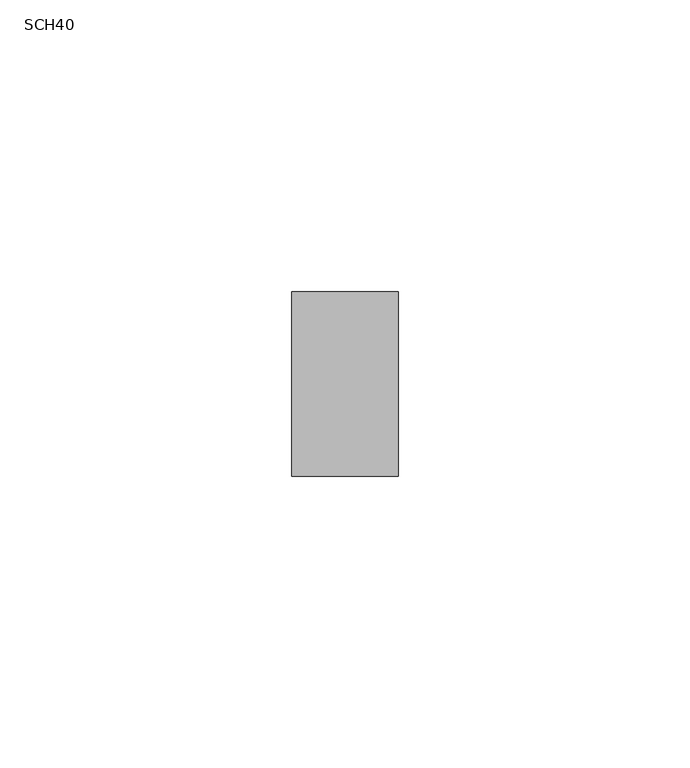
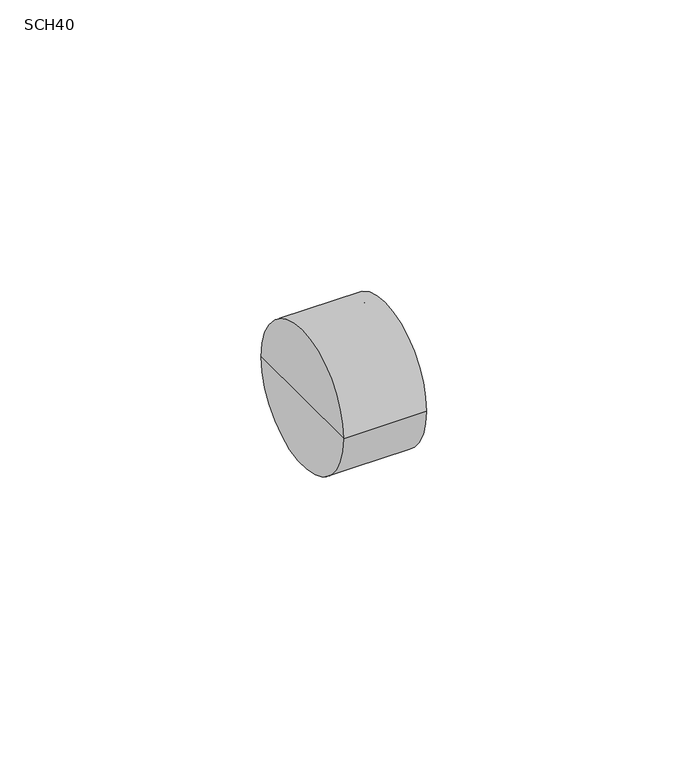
"""IFC4 building model written with IfcOpenShell, lengths in millimetres: cable carrier fitting geometry, PavcoWavin_ConduitFittings_ZnoUsarAdaptadorTerminal : SCH40."""

import ifcopenshell
import ifcopenshell.guid

model = None  # the IFC model being written
_history = None  # IfcOwnerHistory: only IFC2X3 demands one
_inside = {}  # id of a spatial element -> (the spatial element, [elements in it])
_under = {}  # id of a project, library or spatial element -> (it, [spatial elements below it])
_declared = {}  # id of a project -> (the project, [libraries it declares])
_typed = {}  # id of a type object -> (the type object, [elements of that type])
_made_of = {}  # id of a material, layer set ... -> (it, [elements and type objects made of it])


def new_model(schema):
    """Start an empty IFC model of exactly this schema.

    Asked for "IFC4X3", IfcOpenShell would pick the latest addendum, in which some entities
    have other attributes; the version numbers below select the first issue.
    IFC2X3 requires an IfcOwnerHistory on every rooted entity: one is made here for all.
    """
    global model, _history
    if schema == "IFC4X3":
        model = ifcopenshell.file(schema_version=(4, 3, 0, 0))
    else:
        model = ifcopenshell.file(schema=schema)
    _inside.clear()
    _under.clear()
    _declared.clear()
    _typed.clear()
    _made_of.clear()
    _history = None
    if model.schema == "IFC2X3":
        org = make("IfcOrganization", Name="unknown")
        user = make(
            "IfcPersonAndOrganization",
            ThePerson=make("IfcPerson", FamilyName="unknown"),
            TheOrganization=org,
        )
        app = make(
            "IfcApplication",
            ApplicationDeveloper=org,
            Version="unknown",
            ApplicationFullName="unknown",
            ApplicationIdentifier="unknown",
        )
        _history = make(
            "IfcOwnerHistory",
            OwningUser=user,
            OwningApplication=app,
            ChangeAction="ADDED",
            CreationDate=0,
        )
    return model


def make(cls, **values):
    """One entity of the class cls with the attributes given. An attribute that is None is left unset."""
    return model.create_entity(
        cls, **{name: value for name, value in values.items() if value is not None}
    )


def rooted(cls, **values):
    """An entity with a GlobalId (a new one), such as an element, a storey or a relation."""
    return make(cls, GlobalId=ifcopenshell.guid.new(), OwnerHistory=_history, **values)


def si_unit(unit_type, name, prefix=None):
    """IfcSIUnit, for example si_unit("LENGTHUNIT", "METRE", prefix="MILLI")."""
    return make("IfcSIUnit", UnitType=unit_type, Prefix=prefix, Name=name)


def assignment(units):
    """IfcUnitAssignment: the units of a project."""
    return None if units is None else make("IfcUnitAssignment", Units=units)


def point(xyz):
    """IfcCartesianPoint."""
    return None if xyz is None else make("IfcCartesianPoint", Coordinates=xyz)


def direction(xyz):
    """IfcDirection."""
    return None if xyz is None else make("IfcDirection", DirectionRatios=xyz)


def frame(location, z_axis=None, x_axis=None):
    """IfcAxis2Placement3D, a coordinate frame: its origin and axes. An axis left out is left unset."""
    return make(
        "IfcAxis2Placement3D",
        Location=point(location),
        Axis=direction(z_axis),
        RefDirection=direction(x_axis),
    )


def origin():
    """The frame at (0, 0, 0) with its axes left unset."""
    return frame((0.0, 0.0, 0.0))


def place(relative_to, where):
    """IfcLocalPlacement: puts the frame where relative to a parent placement (None: the world)."""
    return make(
        "IfcLocalPlacement", PlacementRelTo=relative_to, RelativePlacement=where
    )


def context(
    kind, dimensions, precision=None, world=None, true_north=None, identifier=None
):
    """IfcGeometricRepresentationContext, for example the 3D "Model" context."""
    return make(
        "IfcGeometricRepresentationContext",
        ContextIdentifier=identifier,
        ContextType=kind,
        CoordinateSpaceDimension=dimensions,
        Precision=precision,
        WorldCoordinateSystem=world,
        TrueNorth=true_north,
    )


def project(units=None, contexts=None):
    """IfcProject with its units and contexts."""
    return rooted(
        "IfcProject",
        Name="project",
        RepresentationContexts=contexts,
        UnitsInContext=assignment(units),
    )


def spatial(cls, under=None, at=None, **own):
    """A site, building, storey or space (cls), placed at a placement, below another one or the project."""
    s = rooted(cls, ObjectPlacement=at, **own)
    if under is not None:
        _under.setdefault(under.id(), (under, []))[1].append(s)
    return s


def polyline(points):
    """IfcPolyline through the points."""
    return make("IfcPolyline", Points=[point(p) for p in points])


def circle_curve(where, radius):
    """IfcCircle in the frame where."""
    return make("IfcCircle", Position=where, Radius=radius)


def shape(context_of_items, identifier, shape_type, items):
    """IfcShapeRepresentation: the items that make up one representation, for example the "Body"."""
    return make(
        "IfcShapeRepresentation",
        ContextOfItems=context_of_items,
        RepresentationIdentifier=identifier,
        RepresentationType=shape_type,
        Items=items,
    )


def source(mapping_origin, context_of_items, identifier, shape_type, items):
    """IfcRepresentationMap: a shape defined once, which mapped items show again and again."""
    return make(
        "IfcRepresentationMap",
        MappingOrigin=mapping_origin,
        MappedRepresentation=shape(context_of_items, identifier, shape_type, items),
    )


def transform(
    local_origin,
    x_axis=None,
    y_axis=None,
    z_axis=None,
    scale=None,
    scale2=None,
    scale3=None,
    uniform=True,
):
    """IfcCartesianTransformationOperator3D, or its non-uniform kind. x_axis, y_axis, z_axis: its Axis1, 2, 3."""
    if uniform:
        return make(
            "IfcCartesianTransformationOperator3D",
            Axis1=direction(x_axis),
            Axis2=direction(y_axis),
            LocalOrigin=point(local_origin),
            Scale=scale,
            Axis3=direction(z_axis),
        )
    return make(
        "IfcCartesianTransformationOperator3DnonUniform",
        Axis1=direction(x_axis),
        Axis2=direction(y_axis),
        LocalOrigin=point(local_origin),
        Scale=scale,
        Axis3=direction(z_axis),
        Scale2=scale2,
        Scale3=scale3,
    )


def mapped(mapping_source, mapping_target):
    """IfcMappedItem: shows the shape of a source again, moved by a transform."""
    return make(
        "IfcMappedItem", MappingSource=mapping_source, MappingTarget=mapping_target
    )


def made_of(thing, what):
    """Note that an element or type object is made of a material, layer set ...; save() writes the relation."""
    if what is not None:
        _made_of.setdefault(what.id(), (what, []))[1].append(thing)
    return thing


def element(
    cls,
    number,
    at=None,
    inside=None,
    cuts=None,
    type_object=None,
    material=None,
    context=None,
    identifier="Body",
    shape_type=None,
    held_by="IfcProductDefinitionShape",
    body=None,
    shapes=None,
    **own,
):
    """One element of the class cls, such as IfcWall. Its Tag is "e" and its number.

    at: its placement. inside: the storey or other place that contains it. cuts: it is an
    opening in that element (IfcRelVoidsElement). A single representation is given by context,
    identifier, shape_type and body (its items); several are given by shapes. held_by: the class
    of the entity that holds the representations. save() writes the other relations.
    """
    e = rooted(cls, Tag="e%d" % number, ObjectPlacement=at, **own)
    if body is not None:
        shapes = [shape(context, identifier, shape_type, body)]
    if shapes is not None:
        e.Representation = make(held_by, Representations=shapes)
    if inside is not None:
        _inside.setdefault(inside.id(), (inside, []))[1].append(e)
    if cuts is not None:
        rooted(
            "IfcRelVoidsElement", RelatingBuildingElement=cuts, RelatedOpeningElement=e
        )
    if type_object is not None:
        _typed.setdefault(type_object.id(), (type_object, []))[1].append(e)
    return made_of(e, material)


def aggregate(whole, parts):
    """IfcRelAggregates: a whole, such as a stair, and the parts it consists of."""
    return rooted("IfcRelAggregates", RelatingObject=whole, RelatedObjects=parts)


def save(model, path):
    """Write the relations noted so far, then the file.

    IfcRelAggregates (storeys below a building ...), IfcRelContainedInSpatialStructure (elements
    in a storey), IfcRelDefinesByType, IfcRelAssociatesMaterial and IfcRelDeclares: one each for
    every whole, place, type object, material and project.
    """
    for whole, parts in _under.values():
        aggregate(whole, parts)
    for where, things in _inside.values():
        rooted(
            "IfcRelContainedInSpatialStructure",
            RelatedElements=things,
            RelatingStructure=where,
        )
    for kind, things in _typed.values():
        rooted("IfcRelDefinesByType", RelatedObjects=things, RelatingType=kind)
    for what, things in _made_of.values():
        rooted("IfcRelAssociatesMaterial", RelatedObjects=things, RelatingMaterial=what)
    for by, libraries in _declared.values():
        rooted("IfcRelDeclares", RelatingContext=by, RelatedDefinitions=libraries)
    model.write(path)


def plane_surface(at):
    """IfcPlane: the flat surface through the origin of the frame at, square to its z axis."""
    return make("IfcPlane", Position=at)


def cylinder_surface(at, radius):
    """IfcCylindricalSurface: all points at the distance radius from the z axis of the frame at."""
    return make("IfcCylindricalSurface", Position=at, Radius=radius)


def revolved_surface(curve, axis_point, axis_direction):
    """IfcSurfaceOfRevolution: the curve turned about the line through axis_point along axis_direction."""
    return make(
        "IfcSurfaceOfRevolution",
        SweptCurve=make("IfcArbitraryOpenProfileDef", ProfileType="CURVE", Curve=curve),
        AxisPosition=make("IfcAxis1Placement", Location=point(axis_point), Axis=direction(axis_direction)),
    )


def advanced_brep(points, edges, surfaces, faces):
    """IfcAdvancedBrep: a solid bounded by faces that lie on surfaces and meet in shared edges.

    An edge is (start, end): straight between two places in points (the first is 0);
    or (start, end, curve); or (start, end, curve, False) where it runs against its curve.
    A face is (place in surfaces, loops), or (place, loops, False) where it looks against
    its surface's normal. A loop lists edges by number (the first is 1), with a minus sign
    where the edge is run from its end to its start. The first loop is the outer one.
    """
    corners = [point(p) for p in points]
    vertices = [make("IfcVertexPoint", VertexGeometry=c) for c in corners]
    made = []
    for start, end, *more in edges:
        made.append(
            make(
                "IfcEdgeCurve",
                EdgeStart=vertices[start],
                EdgeEnd=vertices[end],
                EdgeGeometry=more[0] if more else make("IfcPolyline", Points=[corners[start], corners[end]]),
                SameSense=more[1] if len(more) > 1 else True,
            )
        )
    hull = []
    for where, loops, *sense in faces:
        bounds = []
        for j, loop in enumerate(loops):
            ring = [make("IfcOrientedEdge", EdgeElement=made[abs(k) - 1], Orientation=k > 0) for k in loop]
            bounds.append(
                make(
                    "IfcFaceOuterBound" if j == 0 else "IfcFaceBound",
                    Bound=make("IfcEdgeLoop", EdgeList=ring),
                    Orientation=True,
                )
            )
        hull.append(make("IfcAdvancedFace", Bounds=bounds, FaceSurface=surfaces[where], SameSense=sense[0] if sense else True))
    return make("IfcAdvancedBrep", Outer=make("IfcClosedShell", CfsFaces=hull))


def sch40_14fc688d(model_context):
    return source(origin(), model_context, "Body", "AdvancedBrep", [
        advanced_brep(
        [(18.26, 15.85, 0.0), (18.26, 13.5, 0.0), (18.26, -13.5, 0.0), (18.26, -15.85, 0.0), (0.0, 15.85, 0.0), (0.0, -15.85, 0.0), (0.0, 0.0, 0.0), (2.5, 13.5, 0.0), (2.5, 0.0, 0.0), (2.5, -13.5, 0.0)],
        [
            (0, 1),
            (1, 2, circle_curve(frame((18.26, 0.0, 0.0), z_axis=(-1.0, 0.0, 0.0), x_axis=(0.0, -1.0, 0.0)), 13.5)),
            (2, 3),
            (3, 0, circle_curve(frame((18.26, 0.0, 0.0), z_axis=(1.0, 0.0, 0.0), x_axis=(0.0, -1.0, 0.0)), 15.85)),
            (2, 1, circle_curve(frame((18.26, 0.0, 0.0), z_axis=(-1.0, 0.0, 0.0), x_axis=(0.0, -1.0, 0.0)), 13.5)),
            (0, 3, circle_curve(frame((18.26, 0.0, 0.0), z_axis=(1.0, 0.0, 0.0), x_axis=(0.0, -1.0, 0.0)), 15.85)),
            (4, 0),
            (3, 5),
            (5, 4, circle_curve(frame((0.0, 0.0, 0.0), z_axis=(1.0, 0.0, 0.0), x_axis=(0.0, -1.0, 0.0)), 15.85)),
            (4, 5, circle_curve(frame((0.0, 0.0, 0.0), z_axis=(1.0, 0.0, 0.0), x_axis=(0.0, -1.0, 0.0)), 15.85)),
            (6, 4),
            (5, 6),
            (7, 8),
            (8, 9),
            (9, 7, circle_curve(frame((2.5, 0.0, 0.0), z_axis=(1.0, 0.0, 0.0), x_axis=(0.0, -1.0, 0.0)), 13.5)),
            (7, 9, circle_curve(frame((2.5, 0.0, 0.0), z_axis=(1.0, 0.0, 0.0), x_axis=(0.0, -1.0, 0.0)), 13.5)),
            (1, 7),
            (9, 2),
        ],
        [
            plane_surface(frame((18.26, 0.0, 0.0), z_axis=(1.0, 0.0, 0.0), x_axis=(0.0, -1.0, 0.0))),
            cylinder_surface(frame((2002.03, 0.0, 0.0), z_axis=(-1.0, 0.0, 0.0), x_axis=(0.0, -1.0, 0.0)), 15.85),
            plane_surface(frame((0.0, 0.0, 0.0), z_axis=(-1.0, 0.0, 0.0), x_axis=(0.0, -1.0, 0.0))),
            plane_surface(frame((2.5, 0.0, 0.0), z_axis=(1.0, 0.0, 0.0), x_axis=(0.0, -1.0, 0.0))),
            revolved_surface(polyline([(2.5, -13.5, 0.0), (18.25999999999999, -13.5, 0.0)]), (2002.03, 0.0, 0.0), (-1.0, 0.0, 0.0)),
        ],
        [
            (0, [[1, 2, 3, 4]]),
            (0, [[-3, 5, -1, 6]]),
            (1, [[7, -4, 8, 9]]),
            (1, [[-8, -6, -7, 10]]),
            (2, [[11, -9, 12]]),
            (2, [[-12, -10, -11]]),
            (3, [[13, 14, 15]]),
            (3, [[-14, -13, 16]]),
            (4, [[17, -15, 18, -2]]),
            (4, [[-18, -16, -17, -5]]),
        ],
    ),
    ])


if __name__ == "__main__":
    model = new_model("IFC4")
    model_context = context("Model", 3, world=origin())
    ifc_project = project(units=[si_unit("LENGTHUNIT", "METRE", prefix="MILLI")], contexts=[model_context])
    site = spatial("IfcSite", under=ifc_project)
    building = spatial("IfcBuilding", under=site)
    placement = place(None, origin())
    sch40_shape = sch40_14fc688d(model_context)
    element("IfcCableCarrierFitting", 1, ObjectType="PavcoWavin_ConduitFittings_ZnoUsarAdaptadorTerminal : SCH40", at=placement, inside=building, context=model_context, shape_type="MappedRepresentation", body=[
        mapped(sch40_shape, transform((0.0, 0.0, 0.0), x_axis=(1.0, 0.0, 0.0), y_axis=(0.0, 1.0, 0.0), z_axis=(0.0, 0.0, 1.0))),
    ])
    save(model, "model.ifc")
